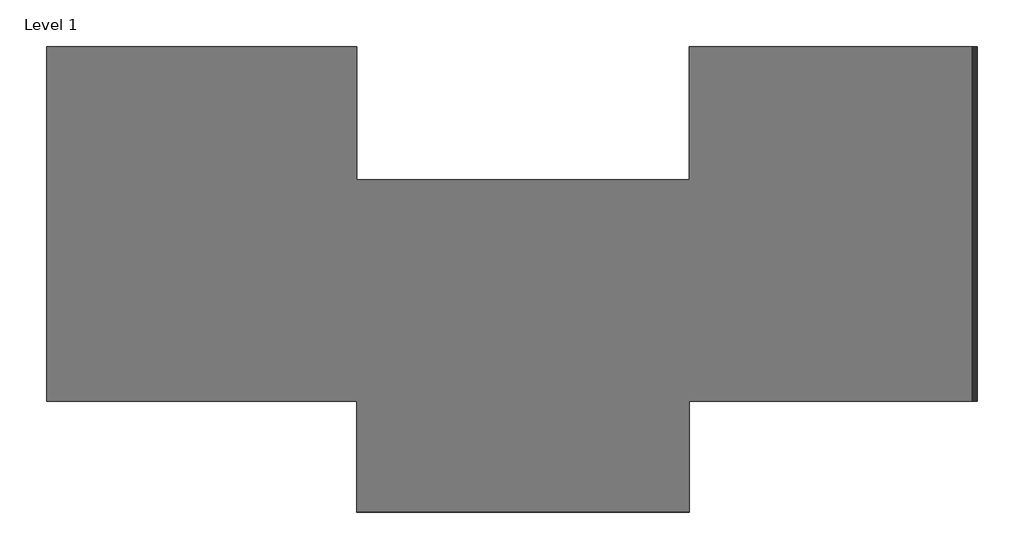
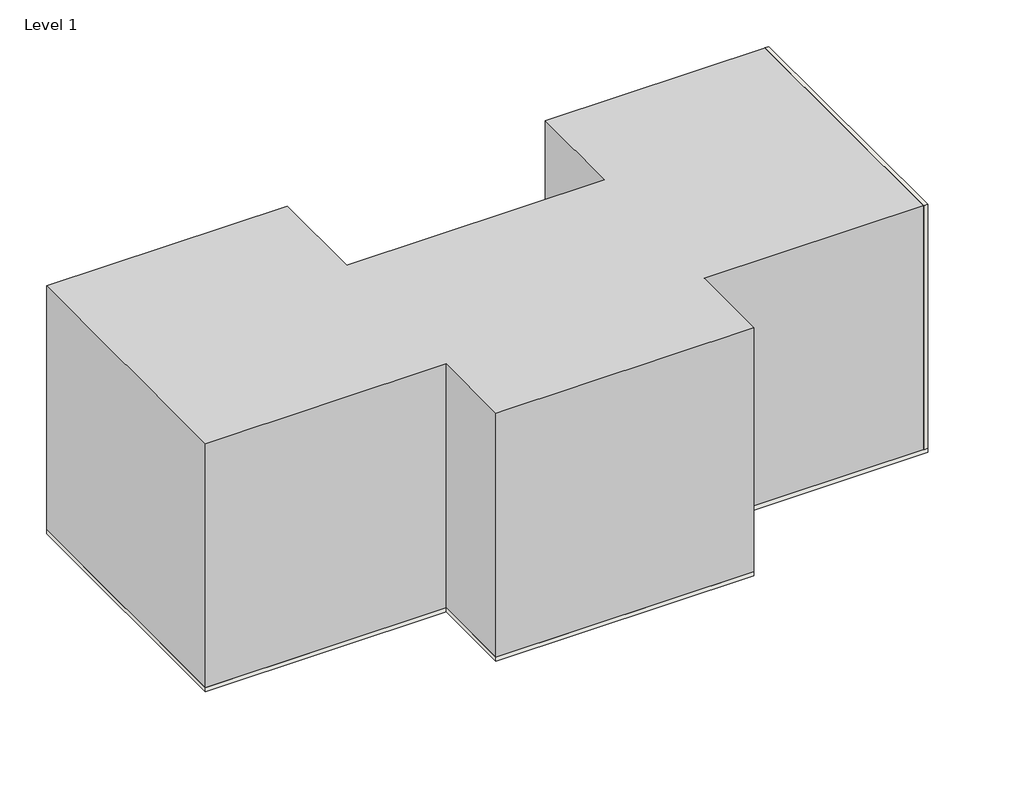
# One storey: 1 proxy, 1 slab, 1 wall.
"""IFC4 building model written with IfcOpenShell, lengths in millimetres."""

import ifcopenshell
import ifcopenshell.guid

model = None  # the IFC model being written
_history = None  # IfcOwnerHistory: only IFC2X3 demands one
_inside = {}  # id of a spatial element -> (the spatial element, [elements in it])
_under = {}  # id of a project, library or spatial element -> (it, [spatial elements below it])
_declared = {}  # id of a project -> (the project, [libraries it declares])
_typed = {}  # id of a type object -> (the type object, [elements of that type])
_made_of = {}  # id of a material, layer set ... -> (it, [elements and type objects made of it])


def new_model(schema):
    """Start an empty IFC model of exactly this schema.

    Asked for "IFC4X3", IfcOpenShell would pick the latest addendum, in which some entities
    have other attributes; the version numbers below select the first issue.
    IFC2X3 requires an IfcOwnerHistory on every rooted entity: one is made here for all.
    """
    global model, _history
    if schema == "IFC4X3":
        model = ifcopenshell.file(schema_version=(4, 3, 0, 0))
    else:
        model = ifcopenshell.file(schema=schema)
    _inside.clear()
    _under.clear()
    _declared.clear()
    _typed.clear()
    _made_of.clear()
    _history = None
    if model.schema == "IFC2X3":
        org = make("IfcOrganization", Name="unknown")
        user = make(
            "IfcPersonAndOrganization",
            ThePerson=make("IfcPerson", FamilyName="unknown"),
            TheOrganization=org,
        )
        app = make(
            "IfcApplication",
            ApplicationDeveloper=org,
            Version="unknown",
            ApplicationFullName="unknown",
            ApplicationIdentifier="unknown",
        )
        _history = make(
            "IfcOwnerHistory",
            OwningUser=user,
            OwningApplication=app,
            ChangeAction="ADDED",
            CreationDate=0,
        )
    return model


def make(cls, **values):
    """One entity of the class cls with the attributes given. An attribute that is None is left unset."""
    return model.create_entity(
        cls, **{name: value for name, value in values.items() if value is not None}
    )


def rooted(cls, **values):
    """An entity with a GlobalId (a new one), such as an element, a storey or a relation."""
    return make(cls, GlobalId=ifcopenshell.guid.new(), OwnerHistory=_history, **values)


def si_unit(unit_type, name, prefix=None):
    """IfcSIUnit, for example si_unit("LENGTHUNIT", "METRE", prefix="MILLI")."""
    return make("IfcSIUnit", UnitType=unit_type, Prefix=prefix, Name=name)


def assignment(units):
    """IfcUnitAssignment: the units of a project."""
    return None if units is None else make("IfcUnitAssignment", Units=units)


def point(xyz):
    """IfcCartesianPoint."""
    return None if xyz is None else make("IfcCartesianPoint", Coordinates=xyz)


def direction(xyz):
    """IfcDirection."""
    return None if xyz is None else make("IfcDirection", DirectionRatios=xyz)


def frame(location, z_axis=None, x_axis=None):
    """IfcAxis2Placement3D, a coordinate frame: its origin and axes. An axis left out is left unset."""
    return make(
        "IfcAxis2Placement3D",
        Location=point(location),
        Axis=direction(z_axis),
        RefDirection=direction(x_axis),
    )


def origin():
    """The frame at (0, 0, 0) with its axes left unset."""
    return frame((0.0, 0.0, 0.0))


def origin_with_axes():
    """The frame at (0, 0, 0) with the z axis (0, 0, 1) and the x axis (1, 0, 0) written out."""
    return frame((0.0, 0.0, 0.0), z_axis=(0.0, 0.0, 1.0), x_axis=(1.0, 0.0, 0.0))


def place(relative_to, where):
    """IfcLocalPlacement: puts the frame where relative to a parent placement (None: the world)."""
    return make(
        "IfcLocalPlacement", PlacementRelTo=relative_to, RelativePlacement=where
    )


def context(
    kind, dimensions, precision=None, world=None, true_north=None, identifier=None
):
    """IfcGeometricRepresentationContext, for example the 3D "Model" context."""
    return make(
        "IfcGeometricRepresentationContext",
        ContextIdentifier=identifier,
        ContextType=kind,
        CoordinateSpaceDimension=dimensions,
        Precision=precision,
        WorldCoordinateSystem=world,
        TrueNorth=true_north,
    )


def project(units=None, contexts=None):
    """IfcProject with its units and contexts."""
    return rooted(
        "IfcProject",
        Name="project",
        RepresentationContexts=contexts,
        UnitsInContext=assignment(units),
    )


def spatial(cls, under=None, at=None, **own):
    """A site, building, storey or space (cls), placed at a placement, below another one or the project."""
    s = rooted(cls, ObjectPlacement=at, **own)
    if under is not None:
        _under.setdefault(under.id(), (under, []))[1].append(s)
    return s


def polyline(points):
    """IfcPolyline through the points."""
    return make("IfcPolyline", Points=[point(p) for p in points])


def outline(outer, holes=None, kind="AREA"):
    """IfcArbitraryClosedProfileDef: a profile drawn as a closed curve; with holes, ...WithVoids."""
    if holes is None:
        return make("IfcArbitraryClosedProfileDef", ProfileType=kind, OuterCurve=outer)
    return make(
        "IfcArbitraryProfileDefWithVoids",
        ProfileType=kind,
        OuterCurve=outer,
        InnerCurves=holes,
    )


def extrude(swept, where, along, depth):
    """IfcExtrudedAreaSolid: the profile swept, set in the frame where, extruded along a direction by depth."""
    return make(
        "IfcExtrudedAreaSolid",
        SweptArea=swept,
        Position=where,
        ExtrudedDirection=direction(along),
        Depth=depth,
    )


def shape(context_of_items, identifier, shape_type, items):
    """IfcShapeRepresentation: the items that make up one representation, for example the "Body"."""
    return make(
        "IfcShapeRepresentation",
        ContextOfItems=context_of_items,
        RepresentationIdentifier=identifier,
        RepresentationType=shape_type,
        Items=items,
    )


def made_of(thing, what):
    """Note that an element or type object is made of a material, layer set ...; save() writes the relation."""
    if what is not None:
        _made_of.setdefault(what.id(), (what, []))[1].append(thing)
    return thing


def element(
    cls,
    number,
    at=None,
    inside=None,
    cuts=None,
    type_object=None,
    material=None,
    context=None,
    identifier="Body",
    shape_type=None,
    held_by="IfcProductDefinitionShape",
    body=None,
    shapes=None,
    **own,
):
    """One element of the class cls, such as IfcWall. Its Tag is "e" and its number.

    at: its placement. inside: the storey or other place that contains it. cuts: it is an
    opening in that element (IfcRelVoidsElement). A single representation is given by context,
    identifier, shape_type and body (its items); several are given by shapes. held_by: the class
    of the entity that holds the representations. save() writes the other relations.
    """
    e = rooted(cls, Tag="e%d" % number, ObjectPlacement=at, **own)
    if body is not None:
        shapes = [shape(context, identifier, shape_type, body)]
    if shapes is not None:
        e.Representation = make(held_by, Representations=shapes)
    if inside is not None:
        _inside.setdefault(inside.id(), (inside, []))[1].append(e)
    if cuts is not None:
        rooted(
            "IfcRelVoidsElement", RelatingBuildingElement=cuts, RelatedOpeningElement=e
        )
    if type_object is not None:
        _typed.setdefault(type_object.id(), (type_object, []))[1].append(e)
    return made_of(e, material)


def aggregate(whole, parts):
    """IfcRelAggregates: a whole, such as a stair, and the parts it consists of."""
    return rooted("IfcRelAggregates", RelatingObject=whole, RelatedObjects=parts)


def save(model, path):
    """Write the relations noted so far, then the file.

    IfcRelAggregates (storeys below a building ...), IfcRelContainedInSpatialStructure (elements
    in a storey), IfcRelDefinesByType, IfcRelAssociatesMaterial and IfcRelDeclares: one each for
    every whole, place, type object, material and project.
    """
    for whole, parts in _under.values():
        aggregate(whole, parts)
    for where, things in _inside.values():
        rooted(
            "IfcRelContainedInSpatialStructure",
            RelatedElements=things,
            RelatingStructure=where,
        )
    for kind, things in _typed.values():
        rooted("IfcRelDefinesByType", RelatedObjects=things, RelatingType=kind)
    for what, things in _made_of.values():
        rooted("IfcRelAssociatesMaterial", RelatedObjects=things, RelatingMaterial=what)
    for by, libraries in _declared.values():
        rooted("IfcRelDeclares", RelatingContext=by, RelatedDefinitions=libraries)
    model.write(path)


model = new_model("IFC4")

# Units and contexts
model_context = context("Model", 3, world=origin())
ifc_project = project(units=[si_unit("LENGTHUNIT", "METRE", prefix="MILLI")], contexts=[model_context])

# Site, building, storey
site = spatial("IfcSite", under=ifc_project)
building = spatial("IfcBuilding", under=site)
storey = spatial("IfcBuildingStorey", under=building, Name="Level 1", Elevation=0.0)

# Proxy
placement = place(None, origin())
element("IfcBuildingElementProxy", 1, Name="Mass 1 : Mass 1", ObjectType="Mass 1 : Mass 1", at=placement, inside=storey, context=model_context, shape_type="SweptSolid", body=[
    extrude(outline(polyline([(2876.9647544, 10145.5659381), (2876.9647544, 2830.3659381), (21164.9647544, 2830.3659381), (21164.9647544, 10145.5659381), (37014.5647544, 10145.5659381), (37014.5647544, -9361.6340619), (21164.9647544, -9361.6340619), (21164.9647544, -15457.6340619), (2876.9647544, -15457.6340619), (2876.9647544, -9361.6340619), (-14191.8352456, -9361.6340619), (-14191.8352456, 10145.5659381), (2876.9647544, 10145.5659381)])), origin_with_axes(), (0.0, 0.0, 1.0), 18288.0),
])

# Slab
element("IfcSlab", 2, ObjectType="Generic - 12\"", at=placement, inside=storey, context=model_context, shape_type="SweptSolid", body=[
    extrude(outline(polyline([(2876.9647544, 10145.5659381), (2876.9647544, 2830.3659381), (21164.9647544, 2830.3659381), (21164.9647544, 10145.5659381), (37014.5647544, 10145.5659381), (37014.5647544, -9361.6340619), (21164.9647544, -9361.6340619), (21164.9647544, -15457.6340619), (2876.9647544, -15457.6340619), (2876.9647544, -9361.6340619), (-14191.8352456, -9361.6340619), (-14191.8352456, 10145.5659381), (2876.9647544, 10145.5659381)])), frame((0.0, 0.0, -304.8), z_axis=(0.0, 0.0, 1.0), x_axis=(1.0, 0.0, 0.0)), (0.0, 0.0, 1.0), 304.8),
])

# Wall
element("IfcWall", 3, ObjectType="Generic - 12\" Masonry", at=placement, inside=storey, context=model_context, shape_type="SweptSolid", body=[
    extrude(outline(polyline([(37014.5647544, 10145.5659381), (37014.5647544, -9361.6340619), (36719.2897544, -9361.6340619), (36719.2897544, 10145.5659381), (37014.5647544, 10145.5659381)])), origin_with_axes(), (0.0, 0.0, 1.0), 18288.0),
])

save(model, "model.ifc")
